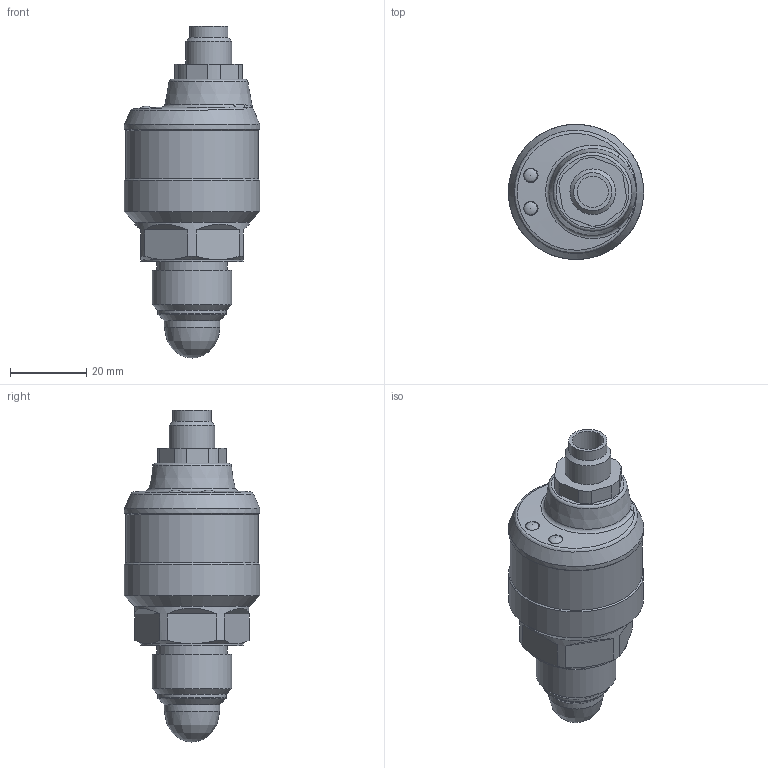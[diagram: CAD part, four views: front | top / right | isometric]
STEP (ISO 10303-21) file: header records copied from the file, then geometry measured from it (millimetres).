
FILE_DESCRIPTION(/* description */ ('Unknown'),/* implementation_level */ '2;1');
FILE_NAME(/* name */ 'RFLS-35_N-1-G1_2-_-C',/* time_stamp */ '2019-07-17T16:41:32+02:00',/* author */ ('Unknown'),/* organization */ ('Unknown'),/* preprocessor_version */ 'ST-DEVELOPER v16.7',/* originating_system */ 'DEX',/* authorisation */ $);
FILE_SCHEMA (('AUTOMOTIVE_DESIGN {1 0 10303 214 3 1 1}'));
Length unit declared in the file: millimetre
Products named in the file (1): RFLS-35_N-1-G1_2-_-C
Bounding box: 35.5 x 35.5 x 87.1 mm (x, y, z)
Volume: 18915.6 mm3; surface area: 15668.2 mm2
Topology: 1 solids, 8 shells, 196 faces, 470 edges, 302 vertices
Faces by surface type: plane 83, cylinder 59, cone 31, bspline 15, torus 7, sphere 1
Full cylindrical faces by diameter (mm): 2.5 x2, 2.6 x2, 3.5 x5, 8.2 x1, 8.6 x1, 10 x1, 12 x1, 12.3 x1, 12.6 x1, 12.9 x1, 12.917 x1, 14 x1, 14.2 x1, 14.3 x1, 14.6 x1, 16 x1, 16.8 x1, 18 x1, 18.6 x1, 20.955 x1, 24 x1, 27 x1, 30 x1, 30.999 x1, 33.3 x2, 33.5 x2, 34.8 x1, 35.5 x2
Entity records: 7554 total; most frequent: CARTESIAN_POINT 2025, DIRECTION 882, ORIENTED_EDGE 736, AXIS2_PLACEMENT_3D 375, EDGE_CURVE 368, FACE_BOUND 293, EDGE_LOOP 286, VERTEX_POINT 277
